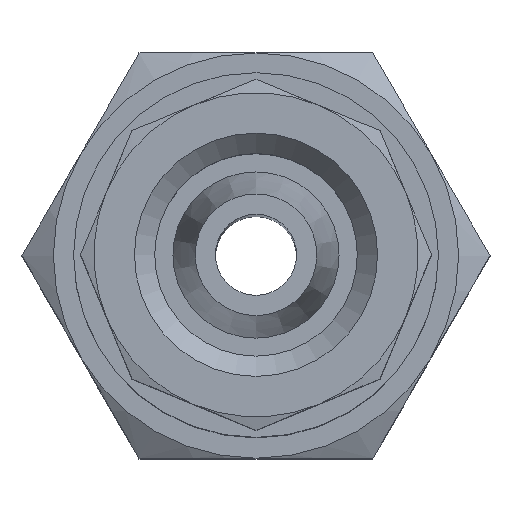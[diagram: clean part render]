
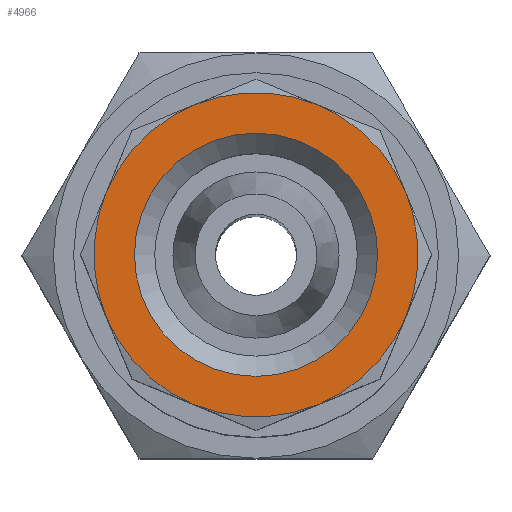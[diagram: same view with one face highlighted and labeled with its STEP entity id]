
A CAD part, top view. The second image highlights one B-rep face of the part: STEP entity #4966.
In plain terms, the highlighted planar face has unit normal (0, 0, 1) as drawn and (0, 1, 0) by its records, which use the part's own axes.
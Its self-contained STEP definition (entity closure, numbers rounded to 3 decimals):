
#2412=ORIENTED_EDGE('',*,*,#3027,.F.);
#2413=ORIENTED_EDGE('',*,*,#3028,.F.);
#2414=ORIENTED_EDGE('',*,*,#3029,.F.);
#2415=ORIENTED_EDGE('',*,*,#3030,.F.);
#2416=ORIENTED_EDGE('',*,*,#3031,.F.);
#2417=ORIENTED_EDGE('',*,*,#3032,.F.);
#2418=ORIENTED_EDGE('',*,*,#3033,.F.);
#2419=ORIENTED_EDGE('',*,*,#3034,.F.);
#2420=ORIENTED_EDGE('',*,*,#3026,.T.);
#2806=CIRCLE('',#4656,3.);
#2807=CIRCLE('',#4658,4.);
#2808=CIRCLE('',#4659,4.);
#2809=CIRCLE('',#4660,4.);
#2810=CIRCLE('',#4661,4.);
#2811=CIRCLE('',#4662,4.);
#2812=CIRCLE('',#4663,4.);
#2813=CIRCLE('',#4664,4.);
#2814=CIRCLE('',#4665,4.);
#2888=VERTEX_POINT('',#4206);
#2889=VERTEX_POINT('',#4209);
#2890=VERTEX_POINT('',#4210);
#2891=VERTEX_POINT('',#4212);
#2892=VERTEX_POINT('',#4214);
#2893=VERTEX_POINT('',#4216);
#2894=VERTEX_POINT('',#4218);
#2895=VERTEX_POINT('',#4220);
#2896=VERTEX_POINT('',#4222);
#3026=EDGE_CURVE('',#2888,#2888,#2806,.T.);
#3027=EDGE_CURVE('',#2889,#2890,#2807,.T.);
#3028=EDGE_CURVE('',#2891,#2889,#2808,.T.);
#3029=EDGE_CURVE('',#2892,#2891,#2809,.T.);
#3030=EDGE_CURVE('',#2893,#2892,#2810,.T.);
#3031=EDGE_CURVE('',#2894,#2893,#2811,.T.);
#3032=EDGE_CURVE('',#2895,#2894,#2812,.T.);
#3033=EDGE_CURVE('',#2896,#2895,#2813,.T.);
#3034=EDGE_CURVE('',#2890,#2896,#2814,.T.);
#3250=EDGE_LOOP('',(#2412,#2413,#2414,#2415,#2416,#2417,#2418,#2419));
#3251=EDGE_LOOP('',(#2420));
#3410=FACE_BOUND('',#3250,.T.);
#3411=FACE_BOUND('',#3251,.T.);
#3610=DIRECTION('',(0.,-1.,0.));
#3611=DIRECTION('',(0.,0.,-3.));
#3612=DIRECTION('',(0.,1.,0.));
#3613=DIRECTION('',(1.,0.,0.));
#3614=DIRECTION('',(0.,-1.,0.));
#3615=DIRECTION('',(0.,0.,4.));
#3616=DIRECTION('',(0.,-1.,0.));
#3617=DIRECTION('',(0.,0.,4.));
#3618=DIRECTION('',(0.,-1.,0.));
#3619=DIRECTION('',(0.,0.,4.));
#3620=DIRECTION('',(0.,-1.,0.));
#3621=DIRECTION('',(0.,0.,4.));
#3622=DIRECTION('',(0.,-1.,0.));
#3623=DIRECTION('',(0.,0.,4.));
#3624=DIRECTION('',(0.,-1.,0.));
#3625=DIRECTION('',(0.,0.,4.));
#3626=DIRECTION('',(0.,-1.,0.));
#3627=DIRECTION('',(0.,0.,4.));
#3628=DIRECTION('',(0.,-1.,0.));
#3629=DIRECTION('',(0.,0.,4.));
#4206=CARTESIAN_POINT('',(26.989,25.595,-3.));
#4207=CARTESIAN_POINT('',(26.989,25.595,0.));
#4208=CARTESIAN_POINT('',(28.52,25.595,3.696));
#4209=CARTESIAN_POINT('',(23.293,25.595,-1.531));
#4210=CARTESIAN_POINT('',(25.458,25.595,-3.696));
#4211=CARTESIAN_POINT('',(26.989,25.595,0.));
#4212=CARTESIAN_POINT('',(23.293,25.595,1.531));
#4213=CARTESIAN_POINT('',(26.989,25.595,0.));
#4214=CARTESIAN_POINT('',(25.458,25.595,3.696));
#4215=CARTESIAN_POINT('',(26.989,25.595,0.));
#4216=CARTESIAN_POINT('',(28.52,25.595,3.696));
#4217=CARTESIAN_POINT('',(26.989,25.595,0.));
#4218=CARTESIAN_POINT('',(30.684,25.595,1.531));
#4219=CARTESIAN_POINT('',(26.989,25.595,0.));
#4220=CARTESIAN_POINT('',(30.684,25.595,-1.531));
#4221=CARTESIAN_POINT('',(26.989,25.595,0.));
#4222=CARTESIAN_POINT('',(28.52,25.595,-3.696));
#4223=CARTESIAN_POINT('',(26.989,25.595,0.));
#4224=CARTESIAN_POINT('',(26.989,25.595,0.));
#4656=AXIS2_PLACEMENT_3D('',#4207,#3610,#3611);
#4657=AXIS2_PLACEMENT_3D('',#4208,#3612,#3613);
#4658=AXIS2_PLACEMENT_3D('',#4211,#3614,#3615);
#4659=AXIS2_PLACEMENT_3D('',#4213,#3616,#3617);
#4660=AXIS2_PLACEMENT_3D('',#4215,#3618,#3619);
#4661=AXIS2_PLACEMENT_3D('',#4217,#3620,#3621);
#4662=AXIS2_PLACEMENT_3D('',#4219,#3622,#3623);
#4663=AXIS2_PLACEMENT_3D('',#4221,#3624,#3625);
#4664=AXIS2_PLACEMENT_3D('',#4223,#3626,#3627);
#4665=AXIS2_PLACEMENT_3D('',#4224,#3628,#3629);
#4910=PLANE('',#4657);
#4966=ADVANCED_FACE('',(#3410,#3411),#4910,.T.);
